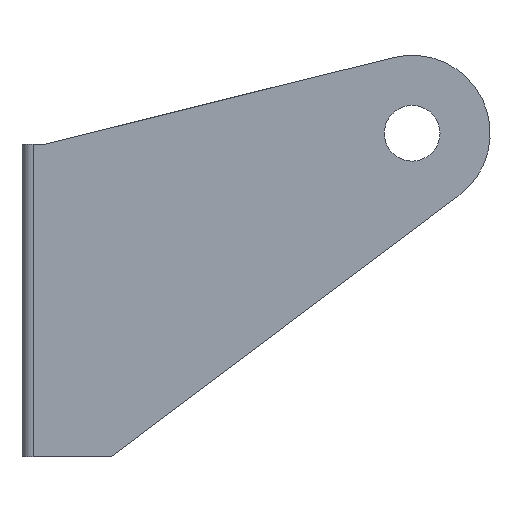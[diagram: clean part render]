
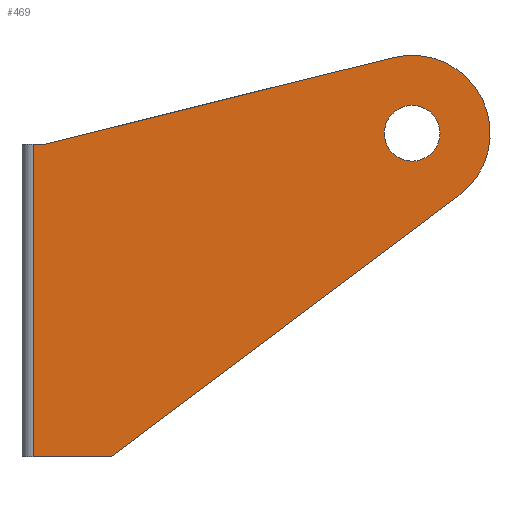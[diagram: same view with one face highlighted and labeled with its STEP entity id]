
A CAD part, left-side view. The second image highlights one B-rep face of the part: STEP entity #469.
In plain terms, the highlighted planar face has unit normal (-1, 0, 0).
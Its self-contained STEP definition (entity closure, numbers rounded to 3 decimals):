
#18=FACE_BOUND('',#163,.T.);
#26=PLANE('',#532);
#49=LINE('',#769,#89);
#50=LINE('',#772,#90);
#51=LINE('',#774,#91);
#52=LINE('',#778,#92);
#53=LINE('',#779,#93);
#89=VECTOR('',#622,10.);
#90=VECTOR('',#625,10.);
#91=VECTOR('',#626,10.);
#92=VECTOR('',#629,10.);
#93=VECTOR('',#630,10.);
#135=FACE_OUTER_BOUND('',#162,.T.);
#162=EDGE_LOOP('',(#363,#364,#365,#366,#367,#368));
#163=EDGE_LOOP('',(#369));
#199=CIRCLE('',#533,7.);
#200=CIRCLE('',#534,2.5);
#229=VERTEX_POINT('',#765);
#230=VERTEX_POINT('',#767);
#231=VERTEX_POINT('',#771);
#232=VERTEX_POINT('',#773);
#233=VERTEX_POINT('',#775);
#234=VERTEX_POINT('',#777);
#235=VERTEX_POINT('',#780);
#281=EDGE_CURVE('',#230,#229,#49,.T.);
#282=EDGE_CURVE('',#230,#231,#50,.T.);
#283=EDGE_CURVE('',#232,#231,#51,.T.);
#284=EDGE_CURVE('',#233,#232,#199,.T.);
#285=EDGE_CURVE('',#234,#233,#52,.T.);
#286=EDGE_CURVE('',#229,#234,#53,.T.);
#287=EDGE_CURVE('',#235,#235,#200,.T.);
#363=ORIENTED_EDGE('',*,*,#281,.F.);
#364=ORIENTED_EDGE('',*,*,#282,.T.);
#365=ORIENTED_EDGE('',*,*,#283,.F.);
#366=ORIENTED_EDGE('',*,*,#284,.F.);
#367=ORIENTED_EDGE('',*,*,#285,.F.);
#368=ORIENTED_EDGE('',*,*,#286,.F.);
#369=ORIENTED_EDGE('',*,*,#287,.T.);
#469=ADVANCED_FACE('',(#135,#18),#26,.T.);
#532=AXIS2_PLACEMENT_3D('',#770,#623,#624);
#533=AXIS2_PLACEMENT_3D('',#776,#627,#628);
#534=AXIS2_PLACEMENT_3D('',#781,#631,#632);
#622=DIRECTION('',(0.,0.,1.));
#623=DIRECTION('center_axis',(-1.,0.,0.));
#624=DIRECTION('ref_axis',(0.,0.,-1.));
#625=DIRECTION('',(0.,-1.,0.));
#626=DIRECTION('',(0.,0.8,-0.6));
#627=DIRECTION('center_axis',(1.,0.,0.));
#628=DIRECTION('ref_axis',(0.,0.,-1.));
#629=DIRECTION('',(0.,-0.97,0.242));
#630=DIRECTION('',(0.,-1.,0.));
#631=DIRECTION('center_axis',(1.,0.,0.));
#632=DIRECTION('ref_axis',(0.,0.,-1.));
#765=CARTESIAN_POINT('',(-15.5,-1.,14.));
#767=CARTESIAN_POINT('',(-15.5,-1.,-14.));
#769=CARTESIAN_POINT('',(-15.5,-1.,7.));
#770=CARTESIAN_POINT('Origin',(-15.5,0.,14.));
#771=CARTESIAN_POINT('',(-15.5,-8.,-14.));
#772=CARTESIAN_POINT('',(-15.5,0.,-14.));
#773=CARTESIAN_POINT('',(-15.5,-39.2,9.4));
#774=CARTESIAN_POINT('',(-15.5,-39.2,9.4));
#775=CARTESIAN_POINT('',(-15.5,-33.309,21.793));
#776=CARTESIAN_POINT('Origin',(-15.5,-35.,15.));
#777=CARTESIAN_POINT('',(-15.5,-2.,14.));
#778=CARTESIAN_POINT('',(-15.5,-2.,14.));
#779=CARTESIAN_POINT('',(-15.5,0.,14.));
#780=CARTESIAN_POINT('',(-15.5,-35.,17.5));
#781=CARTESIAN_POINT('Origin',(-15.5,-35.,15.));
